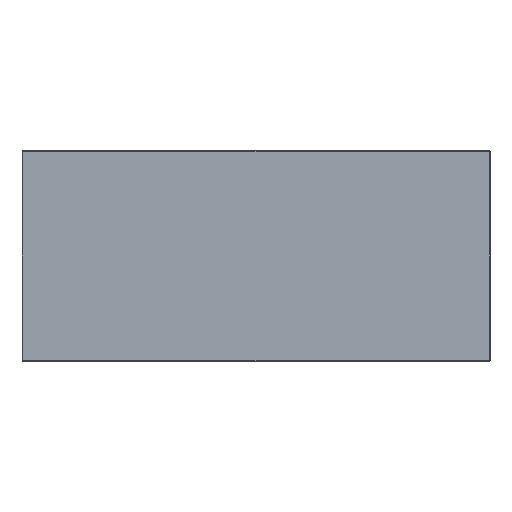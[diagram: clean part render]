
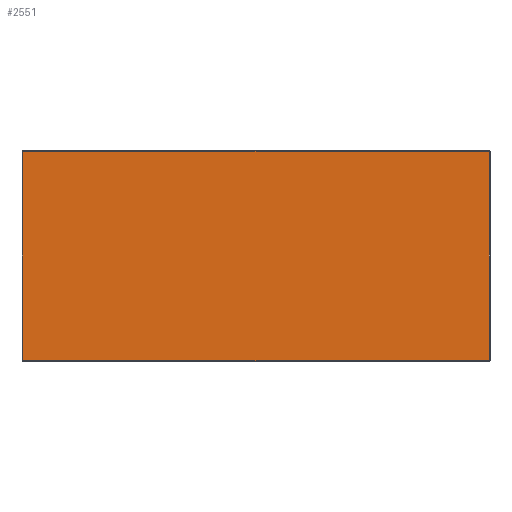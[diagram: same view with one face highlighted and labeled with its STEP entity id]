
A CAD part, front view. The second image highlights one B-rep face of the part: STEP entity #2551.
In plain terms, the highlighted planar face has unit normal (0, -1, 0).
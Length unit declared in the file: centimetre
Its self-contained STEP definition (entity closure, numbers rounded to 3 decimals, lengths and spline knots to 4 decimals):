
#396=VERTEX_POINT('',#4005);
#397=VERTEX_POINT('',#4007);
#424=VERTEX_POINT('',#4091);
#425=VERTEX_POINT('',#4093);
#439=VERTEX_POINT('',#4154);
#441=VERTEX_POINT('',#4162);
#446=VERTEX_POINT('',#4178);
#447=VERTEX_POINT('',#4179);
#448=VERTEX_POINT('',#4190);
#449=VERTEX_POINT('',#4192);
#450=VERTEX_POINT('',#4194);
#451=VERTEX_POINT('',#4196);
#641=VECTOR('',#3260,1.);
#672=VECTOR('',#3336,1.);
#695=VECTOR('',#3397,1.);
#697=VECTOR('',#3407,1.);
#702=VECTOR('',#3423,1.);
#703=VECTOR('',#3429,1.);
#706=VECTOR('',#3433,1.);
#707=VECTOR('',#3435,1.);
#708=VECTOR('',#3436,1.);
#709=VECTOR('',#3437,1.);
#710=VECTOR('',#3438,1.);
#711=VECTOR('',#3439,1.);
#905=LINE('',#4006,#641);
#936=LINE('',#4092,#672);
#959=LINE('',#4153,#695);
#961=LINE('',#4161,#697);
#966=LINE('',#4177,#702);
#967=LINE('',#4183,#703);
#970=LINE('',#4187,#706);
#971=LINE('',#4189,#707);
#972=LINE('',#4191,#708);
#973=LINE('',#4193,#709);
#974=LINE('',#4195,#710);
#975=LINE('',#4197,#711);
#1258=EDGE_CURVE('',#397,#396,#905,.T.);
#1301=EDGE_CURVE('',#425,#424,#936,.T.);
#1332=EDGE_CURVE('',#397,#439,#959,.T.);
#1336=EDGE_CURVE('',#441,#424,#961,.T.);
#1344=EDGE_CURVE('',#446,#447,#966,.T.);
#1347=EDGE_CURVE('',#396,#447,#967,.T.);
#1350=EDGE_CURVE('',#446,#425,#970,.T.);
#1351=EDGE_CURVE('',#441,#448,#971,.T.);
#1352=EDGE_CURVE('',#448,#449,#972,.T.);
#1353=EDGE_CURVE('',#450,#449,#973,.T.);
#1354=EDGE_CURVE('',#450,#451,#974,.T.);
#1355=EDGE_CURVE('',#451,#439,#975,.T.);
#2056=ORIENTED_EDGE('',*,*,#1258,.T.);
#2057=ORIENTED_EDGE('',*,*,#1347,.T.);
#2058=ORIENTED_EDGE('',*,*,#1344,.F.);
#2059=ORIENTED_EDGE('',*,*,#1350,.T.);
#2060=ORIENTED_EDGE('',*,*,#1301,.T.);
#2061=ORIENTED_EDGE('',*,*,#1336,.F.);
#2062=ORIENTED_EDGE('',*,*,#1351,.T.);
#2063=ORIENTED_EDGE('',*,*,#1352,.T.);
#2064=ORIENTED_EDGE('',*,*,#1353,.F.);
#2065=ORIENTED_EDGE('',*,*,#1354,.T.);
#2066=ORIENTED_EDGE('',*,*,#1355,.T.);
#2067=ORIENTED_EDGE('',*,*,#1332,.F.);
#2273=EDGE_LOOP('',(#2056,#2057,#2058,#2059,#2060,#2061,#2062,#2063,#2064,
#2065,#2066,#2067));
#2419=FACE_BOUND('',#2273,.T.);
#2551=ADVANCED_FACE('',(#2419),#4289,.F.);
#2785=AXIS2_PLACEMENT_3D('',#4188,#3434,$);
#3260=DIRECTION('',(1.,0.,0.));
#3336=DIRECTION('',(1.,0.,0.));
#3397=DIRECTION('',(0.,0.,1.));
#3407=DIRECTION('',(0.,0.,-1.));
#3423=DIRECTION('',(-1.,0.,0.));
#3429=DIRECTION('',(0.,0.,-1.));
#3433=DIRECTION('',(0.,0.,1.));
#3434=DIRECTION('',(0.,1.,0.));
#3435=DIRECTION('',(-1.,0.,0.));
#3436=DIRECTION('',(0.,0.,1.));
#3437=DIRECTION('',(1.,0.,0.));
#3438=DIRECTION('',(0.,0.,-1.));
#3439=DIRECTION('',(-1.,0.,0.));
#4005=CARTESIAN_POINT('',(-50.6171,0.,-22.6238));
#4006=CARTESIAN_POINT('',(-25.3282,0.,-22.6238));
#4007=CARTESIAN_POINT('',(-50.6425,0.,-22.6238));
#4091=CARTESIAN_POINT('',(50.6425,0.,-22.6238));
#4092=CARTESIAN_POINT('',(25.3282,0.,-22.6238));
#4093=CARTESIAN_POINT('',(50.6171,0.,-22.6238));
#4153=CARTESIAN_POINT('',(-50.6425,0.,-22.7025));
#4154=CARTESIAN_POINT('',(-50.6425,0.,22.6238));
#4161=CARTESIAN_POINT('',(50.6425,0.,22.7025));
#4162=CARTESIAN_POINT('',(50.6425,0.,22.6238));
#4177=CARTESIAN_POINT('',(50.6425,0.,-22.7025));
#4178=CARTESIAN_POINT('',(50.6171,0.,-22.7025));
#4179=CARTESIAN_POINT('',(-50.6171,0.,-22.7025));
#4183=CARTESIAN_POINT('',(-50.6171,0.,-11.3316));
#4187=CARTESIAN_POINT('',(50.6171,0.,-11.3316));
#4188=CARTESIAN_POINT('',(0.,0.,0.));
#4189=CARTESIAN_POINT('',(25.3282,0.,22.6238));
#4190=CARTESIAN_POINT('',(50.6171,0.,22.6238));
#4191=CARTESIAN_POINT('',(50.6171,0.,11.3316));
#4192=CARTESIAN_POINT('',(50.6171,0.,22.7025));
#4193=CARTESIAN_POINT('',(-50.6425,0.,22.7025));
#4194=CARTESIAN_POINT('',(-50.6171,0.,22.7025));
#4195=CARTESIAN_POINT('',(-50.6171,0.,11.3316));
#4196=CARTESIAN_POINT('',(-50.6171,0.,22.6238));
#4197=CARTESIAN_POINT('',(-25.3282,0.,22.6238));
#4289=PLANE('',#2785);
